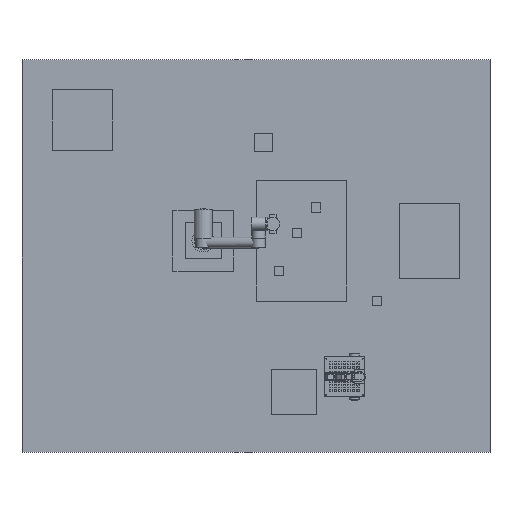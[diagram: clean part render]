
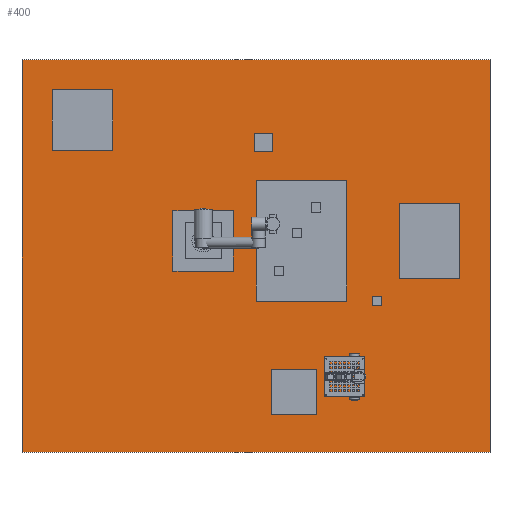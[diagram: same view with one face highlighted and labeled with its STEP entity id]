
A CAD part, top view. The second image highlights one B-rep face of the part: STEP entity #400.
In plain terms, the highlighted planar face has unit normal (0, 0, 1).
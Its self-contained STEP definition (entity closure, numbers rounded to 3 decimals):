
#86 = VERTEX_POINT('',#87);
#87 = CARTESIAN_POINT('',(-1200.,-1400.,0.));
#94 = PLANE('',#95);
#95 = AXIS2_PLACEMENT_3D('',#96,#97,#98);
#96 = CARTESIAN_POINT('',(-1200.,-1400.,-10.));
#97 = DIRECTION('',(1.,0.,0.));
#98 = DIRECTION('',(0.,0.,1.));
#106 = PLANE('',#107);
#107 = AXIS2_PLACEMENT_3D('',#108,#109,#110);
#108 = CARTESIAN_POINT('',(-1200.,-1400.,-10.));
#109 = DIRECTION('',(0.,1.,0.));
#110 = DIRECTION('',(0.,0.,1.));
#147 = VERTEX_POINT('',#148);
#148 = CARTESIAN_POINT('',(-1200.,1200.,0.));
#162 = PLANE('',#163);
#163 = AXIS2_PLACEMENT_3D('',#164,#165,#166);
#164 = CARTESIAN_POINT('',(-1200.,1200.,-10.));
#165 = DIRECTION('',(0.,1.,0.));
#166 = DIRECTION('',(0.,0.,1.));
#174 = EDGE_CURVE('',#86,#147,#175,.T.);
#175 = SURFACE_CURVE('',#176,(#180,#187),.PCURVE_S1.);
#176 = LINE('',#177,#178);
#177 = CARTESIAN_POINT('',(-1200.,-1400.,0.));
#178 = VECTOR('',#179,1.);
#179 = DIRECTION('',(0.,1.,0.));
#180 = PCURVE('',#94,#181);
#181 = DEFINITIONAL_REPRESENTATION('',(#182),#186);
#182 = LINE('',#183,#184);
#183 = CARTESIAN_POINT('',(10.,0.));
#184 = VECTOR('',#185,1.);
#185 = DIRECTION('',(0.,-1.));
#186 = ( GEOMETRIC_REPRESENTATION_CONTEXT(2) 
PARAMETRIC_REPRESENTATION_CONTEXT() REPRESENTATION_CONTEXT('2D SPACE',''
  ) );
#187 = PCURVE('',#188,#193);
#188 = PLANE('',#189);
#189 = AXIS2_PLACEMENT_3D('',#190,#191,#192);
#190 = CARTESIAN_POINT('',(-1200.,-1400.,0.));
#191 = DIRECTION('',(0.,0.,1.));
#192 = DIRECTION('',(1.,0.,0.));
#193 = DEFINITIONAL_REPRESENTATION('',(#194),#198);
#194 = LINE('',#195,#196);
#195 = CARTESIAN_POINT('',(0.,0.));
#196 = VECTOR('',#197,1.);
#197 = DIRECTION('',(0.,1.));
#198 = ( GEOMETRIC_REPRESENTATION_CONTEXT(2) 
PARAMETRIC_REPRESENTATION_CONTEXT() REPRESENTATION_CONTEXT('2D SPACE',''
  ) );
#206 = VERTEX_POINT('',#207);
#207 = CARTESIAN_POINT('',(1900.,-1400.,0.));
#214 = PLANE('',#215);
#215 = AXIS2_PLACEMENT_3D('',#216,#217,#218);
#216 = CARTESIAN_POINT('',(1900.,-1400.,-10.));
#217 = DIRECTION('',(1.,0.,0.));
#218 = DIRECTION('',(0.,0.,1.));
#257 = VERTEX_POINT('',#258);
#258 = CARTESIAN_POINT('',(1900.,1200.,0.));
#279 = EDGE_CURVE('',#206,#257,#280,.T.);
#280 = SURFACE_CURVE('',#281,(#285,#292),.PCURVE_S1.);
#281 = LINE('',#282,#283);
#282 = CARTESIAN_POINT('',(1900.,-1400.,0.));
#283 = VECTOR('',#284,1.);
#284 = DIRECTION('',(0.,1.,0.));
#285 = PCURVE('',#214,#286);
#286 = DEFINITIONAL_REPRESENTATION('',(#287),#291);
#287 = LINE('',#288,#289);
#288 = CARTESIAN_POINT('',(10.,0.));
#289 = VECTOR('',#290,1.);
#290 = DIRECTION('',(0.,-1.));
#291 = ( GEOMETRIC_REPRESENTATION_CONTEXT(2) 
PARAMETRIC_REPRESENTATION_CONTEXT() REPRESENTATION_CONTEXT('2D SPACE',''
  ) );
#292 = PCURVE('',#188,#293);
#293 = DEFINITIONAL_REPRESENTATION('',(#294),#298);
#294 = LINE('',#295,#296);
#295 = CARTESIAN_POINT('',(3100.,0.));
#296 = VECTOR('',#297,1.);
#297 = DIRECTION('',(0.,1.));
#298 = ( GEOMETRIC_REPRESENTATION_CONTEXT(2) 
PARAMETRIC_REPRESENTATION_CONTEXT() REPRESENTATION_CONTEXT('2D SPACE',''
  ) );
#325 = EDGE_CURVE('',#86,#206,#326,.T.);
#326 = SURFACE_CURVE('',#327,(#331,#338),.PCURVE_S1.);
#327 = LINE('',#328,#329);
#328 = CARTESIAN_POINT('',(-1200.,-1400.,0.));
#329 = VECTOR('',#330,1.);
#330 = DIRECTION('',(1.,0.,0.));
#331 = PCURVE('',#106,#332);
#332 = DEFINITIONAL_REPRESENTATION('',(#333),#337);
#333 = LINE('',#334,#335);
#334 = CARTESIAN_POINT('',(10.,0.));
#335 = VECTOR('',#336,1.);
#336 = DIRECTION('',(0.,1.));
#337 = ( GEOMETRIC_REPRESENTATION_CONTEXT(2) 
PARAMETRIC_REPRESENTATION_CONTEXT() REPRESENTATION_CONTEXT('2D SPACE',''
  ) );
#338 = PCURVE('',#188,#339);
#339 = DEFINITIONAL_REPRESENTATION('',(#340),#344);
#340 = LINE('',#341,#342);
#341 = CARTESIAN_POINT('',(0.,0.));
#342 = VECTOR('',#343,1.);
#343 = DIRECTION('',(1.,0.));
#344 = ( GEOMETRIC_REPRESENTATION_CONTEXT(2) 
PARAMETRIC_REPRESENTATION_CONTEXT() REPRESENTATION_CONTEXT('2D SPACE',''
  ) );
#372 = EDGE_CURVE('',#147,#257,#373,.T.);
#373 = SURFACE_CURVE('',#374,(#378,#385),.PCURVE_S1.);
#374 = LINE('',#375,#376);
#375 = CARTESIAN_POINT('',(-1200.,1200.,0.));
#376 = VECTOR('',#377,1.);
#377 = DIRECTION('',(1.,0.,0.));
#378 = PCURVE('',#162,#379);
#379 = DEFINITIONAL_REPRESENTATION('',(#380),#384);
#380 = LINE('',#381,#382);
#381 = CARTESIAN_POINT('',(10.,0.));
#382 = VECTOR('',#383,1.);
#383 = DIRECTION('',(0.,1.));
#384 = ( GEOMETRIC_REPRESENTATION_CONTEXT(2) 
PARAMETRIC_REPRESENTATION_CONTEXT() REPRESENTATION_CONTEXT('2D SPACE',''
  ) );
#385 = PCURVE('',#188,#386);
#386 = DEFINITIONAL_REPRESENTATION('',(#387),#391);
#387 = LINE('',#388,#389);
#388 = CARTESIAN_POINT('',(0.,2600.));
#389 = VECTOR('',#390,1.);
#390 = DIRECTION('',(1.,0.));
#391 = ( GEOMETRIC_REPRESENTATION_CONTEXT(2) 
PARAMETRIC_REPRESENTATION_CONTEXT() REPRESENTATION_CONTEXT('2D SPACE',''
  ) );
#400 = ADVANCED_FACE('',(#401),#188,.T.);
#401 = FACE_BOUND('',#402,.T.);
#402 = EDGE_LOOP('',(#403,#404,#405,#406));
#403 = ORIENTED_EDGE('',*,*,#174,.F.);
#404 = ORIENTED_EDGE('',*,*,#325,.T.);
#405 = ORIENTED_EDGE('',*,*,#279,.T.);
#406 = ORIENTED_EDGE('',*,*,#372,.F.);
